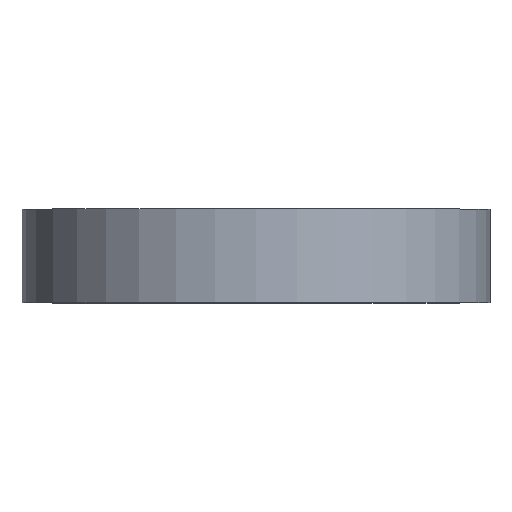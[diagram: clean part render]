
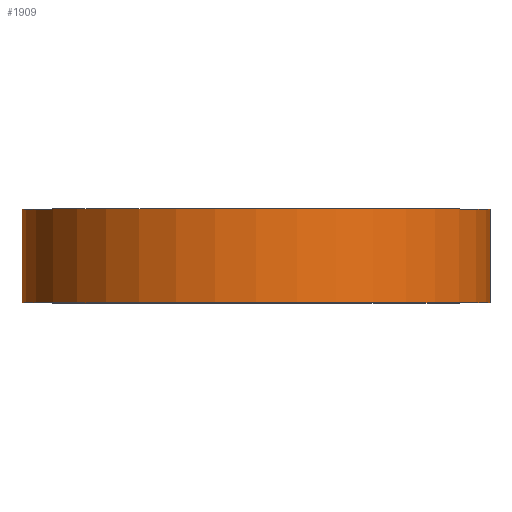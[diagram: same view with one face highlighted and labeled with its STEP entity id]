
A CAD part, top view. The second image highlights one B-rep face of the part: STEP entity #1909.
In plain terms, the highlighted cylindrical face has radius 63.5 mm (diameter 127 mm), a full revolution.
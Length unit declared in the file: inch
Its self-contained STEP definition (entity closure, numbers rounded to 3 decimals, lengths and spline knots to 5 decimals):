
#257=FACE_OUTER_BOUND('',#349,.T.);
#349=EDGE_LOOP('',(#1576,#1577,#1578,#1579));
#529=LINE('',#3236,#673);
#673=VECTOR('',#2696,2.5);
#790=CIRCLE('',#2139,2.5);
#791=CIRCLE('',#2140,2.5);
#966=VERTEX_POINT('',#3233);
#967=VERTEX_POINT('',#3235);
#1227=EDGE_CURVE('',#966,#966,#790,.T.);
#1228=EDGE_CURVE('',#966,#967,#529,.T.);
#1229=EDGE_CURVE('',#967,#967,#791,.T.);
#1576=ORIENTED_EDGE('',*,*,#1227,.F.);
#1577=ORIENTED_EDGE('',*,*,#1228,.T.);
#1578=ORIENTED_EDGE('',*,*,#1229,.T.);
#1579=ORIENTED_EDGE('',*,*,#1228,.F.);
#1821=CYLINDRICAL_SURFACE('',#2138,2.5);
#1909=ADVANCED_FACE('',(#257),#1821,.T.);
#2138=AXIS2_PLACEMENT_3D('',#3232,#2692,#2693);
#2139=AXIS2_PLACEMENT_3D('',#3234,#2694,#2695);
#2140=AXIS2_PLACEMENT_3D('',#3237,#2697,#2698);
#2692=DIRECTION('center_axis',(0.,1.,0.));
#2693=DIRECTION('ref_axis',(-1.,0.,0.));
#2694=DIRECTION('center_axis',(0.,1.,0.));
#2695=DIRECTION('ref_axis',(-1.,0.,0.));
#2696=DIRECTION('',(0.,-1.,0.));
#2697=DIRECTION('center_axis',(0.,1.,0.));
#2698=DIRECTION('ref_axis',(-1.,0.,0.));
#3232=CARTESIAN_POINT('Origin',(0.,0.,0.));
#3233=CARTESIAN_POINT('',(2.5,1.,0.));
#3234=CARTESIAN_POINT('Origin',(0.,1.,0.));
#3235=CARTESIAN_POINT('',(2.5,0.,0.));
#3236=CARTESIAN_POINT('',(2.5,0.,0.));
#3237=CARTESIAN_POINT('Origin',(0.,0.,0.));
